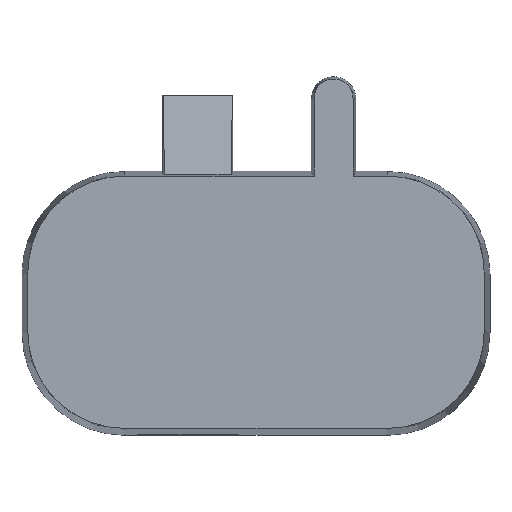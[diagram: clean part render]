
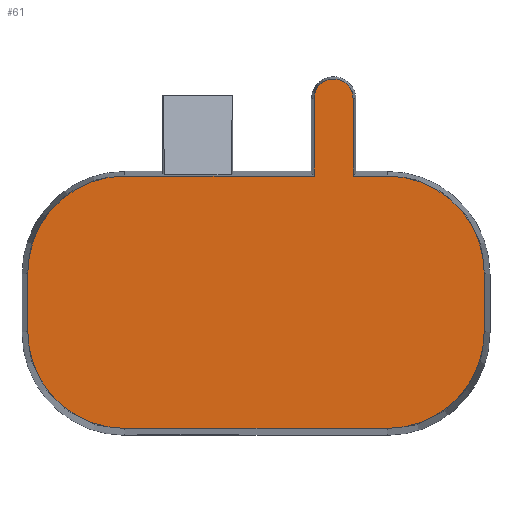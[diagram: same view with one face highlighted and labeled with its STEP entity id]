
A CAD part, top view. The second image highlights one B-rep face of the part: STEP entity #61.
In plain terms, the highlighted planar face has unit normal (0, 0, 1).
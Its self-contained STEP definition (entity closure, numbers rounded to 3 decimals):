
#41=PLANE('',#475);
#61=ADVANCED_FACE('',(#90),#41,.T.);
#90=FACE_OUTER_BOUND('',#112,.T.);
#112=EDGE_LOOP('',(#160,#161,#162,#163,#164,#165,#166,#167,#168,#169,#170,
#171));
#134=CIRCLE('',#465,0.5);
#136=CIRCLE('',#471,2.5);
#137=CIRCLE('',#472,2.5);
#138=CIRCLE('',#473,2.5);
#139=CIRCLE('',#474,2.5);
#160=ORIENTED_EDGE('',*,*,#315,.F.);
#161=ORIENTED_EDGE('',*,*,#316,.F.);
#162=ORIENTED_EDGE('',*,*,#317,.F.);
#163=ORIENTED_EDGE('',*,*,#318,.F.);
#164=ORIENTED_EDGE('',*,*,#319,.F.);
#165=ORIENTED_EDGE('',*,*,#320,.F.);
#166=ORIENTED_EDGE('',*,*,#321,.F.);
#167=ORIENTED_EDGE('',*,*,#310,.F.);
#168=ORIENTED_EDGE('',*,*,#305,.F.);
#169=ORIENTED_EDGE('',*,*,#314,.F.);
#170=ORIENTED_EDGE('',*,*,#322,.F.);
#171=ORIENTED_EDGE('',*,*,#323,.F.);
#264=VERTEX_POINT('',#621);
#266=VERTEX_POINT('',#624);
#269=VERTEX_POINT('',#631);
#271=VERTEX_POINT('',#640);
#272=VERTEX_POINT('',#644);
#273=VERTEX_POINT('',#645);
#274=VERTEX_POINT('',#647);
#275=VERTEX_POINT('',#649);
#276=VERTEX_POINT('',#651);
#277=VERTEX_POINT('',#653);
#278=VERTEX_POINT('',#655);
#279=VERTEX_POINT('',#658);
#305=EDGE_CURVE('',#264,#266,#134,.T.);
#310=EDGE_CURVE('',#266,#269,#368,.T.);
#314=EDGE_CURVE('',#271,#264,#372,.T.);
#315=EDGE_CURVE('',#272,#273,#373,.T.);
#316=EDGE_CURVE('',#274,#272,#136,.T.);
#317=EDGE_CURVE('',#275,#274,#374,.T.);
#318=EDGE_CURVE('',#276,#275,#137,.T.);
#319=EDGE_CURVE('',#277,#276,#375,.T.);
#320=EDGE_CURVE('',#278,#277,#138,.T.);
#321=EDGE_CURVE('',#269,#278,#376,.T.);
#322=EDGE_CURVE('',#279,#271,#377,.T.);
#323=EDGE_CURVE('',#273,#279,#139,.T.);
#368=LINE('',#633,#418);
#372=LINE('',#641,#422);
#373=LINE('',#643,#423);
#374=LINE('',#648,#424);
#375=LINE('',#652,#425);
#376=LINE('',#656,#426);
#377=LINE('',#657,#427);
#418=VECTOR('',#511,1.);
#422=VECTOR('',#519,1.);
#423=VECTOR('',#522,1.);
#424=VECTOR('',#525,1.);
#425=VECTOR('',#528,1.);
#426=VECTOR('',#531,1.);
#427=VECTOR('',#532,1.);
#465=AXIS2_PLACEMENT_3D('',#623,#502,#503);
#471=AXIS2_PLACEMENT_3D('',#646,#523,#524);
#472=AXIS2_PLACEMENT_3D('',#650,#526,#527);
#473=AXIS2_PLACEMENT_3D('',#654,#529,#530);
#474=AXIS2_PLACEMENT_3D('',#659,#533,#534);
#475=AXIS2_PLACEMENT_3D('',#660,#535,#536);
#502=DIRECTION('',(0.,0.,-1.));
#503=DIRECTION('',(1.,0.,0.));
#511=DIRECTION('',(0.,-1.,0.));
#519=DIRECTION('',(0.,1.,0.));
#522=DIRECTION('',(0.,1.,0.));
#523=DIRECTION('',(0.,0.,-1.));
#524=DIRECTION('',(1.,0.,0.));
#525=DIRECTION('',(-1.,0.,0.));
#526=DIRECTION('',(0.,0.,-1.));
#527=DIRECTION('',(1.,0.,0.));
#528=DIRECTION('',(0.,-1.,0.));
#529=DIRECTION('',(0.,0.,-1.));
#530=DIRECTION('',(1.,0.,0.));
#531=DIRECTION('',(1.,0.,0.));
#532=DIRECTION('',(1.,0.,0.));
#533=DIRECTION('',(0.,0.,-1.));
#534=DIRECTION('',(1.,0.,0.));
#535=DIRECTION('',(0.,0.,1.));
#536=DIRECTION('',(1.,0.,0.));
#621=CARTESIAN_POINT('',(1.5,5.25,9.044));
#623=CARTESIAN_POINT('',(2.,5.25,9.044));
#624=CARTESIAN_POINT('',(2.5,5.25,9.044));
#631=CARTESIAN_POINT('',(2.5,3.25,9.044));
#633=CARTESIAN_POINT('',(2.5,0.,9.044));
#640=CARTESIAN_POINT('',(1.5,3.25,9.044));
#641=CARTESIAN_POINT('',(1.5,0.,9.044));
#643=CARTESIAN_POINT('',(-5.88,0.,9.044));
#644=CARTESIAN_POINT('',(-5.88,-0.75,9.044));
#645=CARTESIAN_POINT('',(-5.88,0.75,9.044));
#646=CARTESIAN_POINT('',(-3.38,-0.75,9.044));
#647=CARTESIAN_POINT('',(-3.38,-3.25,9.044));
#648=CARTESIAN_POINT('',(0.,-3.25,9.044));
#649=CARTESIAN_POINT('',(3.38,-3.25,9.044));
#650=CARTESIAN_POINT('',(3.38,-0.75,9.044));
#651=CARTESIAN_POINT('',(5.88,-0.75,9.044));
#652=CARTESIAN_POINT('',(5.88,0.,9.044));
#653=CARTESIAN_POINT('',(5.88,0.75,9.044));
#654=CARTESIAN_POINT('',(3.38,0.75,9.044));
#655=CARTESIAN_POINT('',(3.38,3.25,9.044));
#656=CARTESIAN_POINT('',(-0.942,3.25,9.044));
#657=CARTESIAN_POINT('',(-0.942,3.25,9.044));
#658=CARTESIAN_POINT('',(-3.38,3.25,9.044));
#659=CARTESIAN_POINT('',(-3.38,0.75,9.044));
#660=CARTESIAN_POINT('',(0.,0.,9.044));
